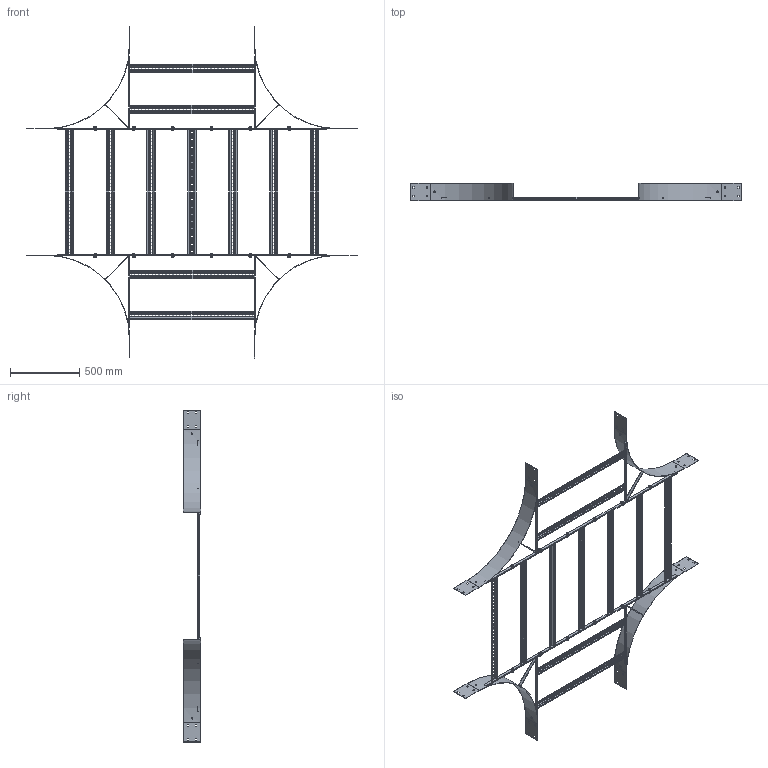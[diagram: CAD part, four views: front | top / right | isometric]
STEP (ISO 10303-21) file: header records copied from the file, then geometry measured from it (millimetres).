
FILE_DESCRIPTION (( 'STEP AP203' ), '1' );
FILE_NAME ('N3 C 9006.STEP', '2024-08-27T05:10:18', ( '' ), ( '' ), 'SwSTEP 2.0', 'SolidWorks 2023', '' );
FILE_SCHEMA (( 'CONFIG_CONTROL_DESIGN' ));
Length unit declared in the file: millimetre
Products named in the file (14): Washers_M10 washer; Ladder Tee 20x5 Flat Bar_518; Ladder Tee 20x5 Flat Bar_1945; Fascia Kit M10x25_4th position; N3C9006 vertical with sides_N3 C; CNH M10 Collar Nut_CNH M10 collar nut HDG; N3 RADIUS PLATE_N1-600 IR; Fascia bolt - M10x25_Fascia bolt; N3C9006 horizontal_N3 C; Ladder Rung_Ladder Rung -  900mm; Ladder Tee 20x5 Flat Bar_240; N3 C 9006
Assembly tree (36 placements, depth 3):
  N3 C 9006
    N3C9006 vertical with sides_N3 C  x2
      Ladder Tee 20x5 Flat Bar_1945
      N3 RADIUS PLATE_N1-600 IR
      Ladder Rung_Ladder Rung -  900mm
      Ladder Tee 20x5 Flat Bar_518
      Ladder Tee 20x5 Flat Bar_240
    N3C9006 horizontal_N3 C
      Ladder Rung_Ladder Rung -  900mm  x7
      Ladder Tee 20x5 Flat Bar_1945
      Ladder Tee 20x5 Flat Bar_1945
    Fascia Kit M10x25_4th position  x12
      Fascia bolt - M10x25_Fascia bolt
      Washers_M10 washer
      CNH M10 Collar Nut_CNH M10 collar nut HDG
Bounding box: 2385 x 124 x 2395 mm (x, y, z)
Volume: 3388101.7 mm3; surface area: 3203963.9 mm2
Topology: 63 solids, 63 shells, 4598 faces, 12468 edges, 8044 vertices
Faces by surface type: plane 3910, cylinder 232, cone 168, bspline 168, torus 96, sphere 24
Entity records: 20079 total; most frequent: CARTESIAN_POINT 4606, ORIENTED_EDGE 2826, DIRECTION 2569, EDGE_CURVE 1413, VECTOR 1161, LINE 1161, VERTEX_POINT 917, AXIS2_PLACEMENT_3D 704
